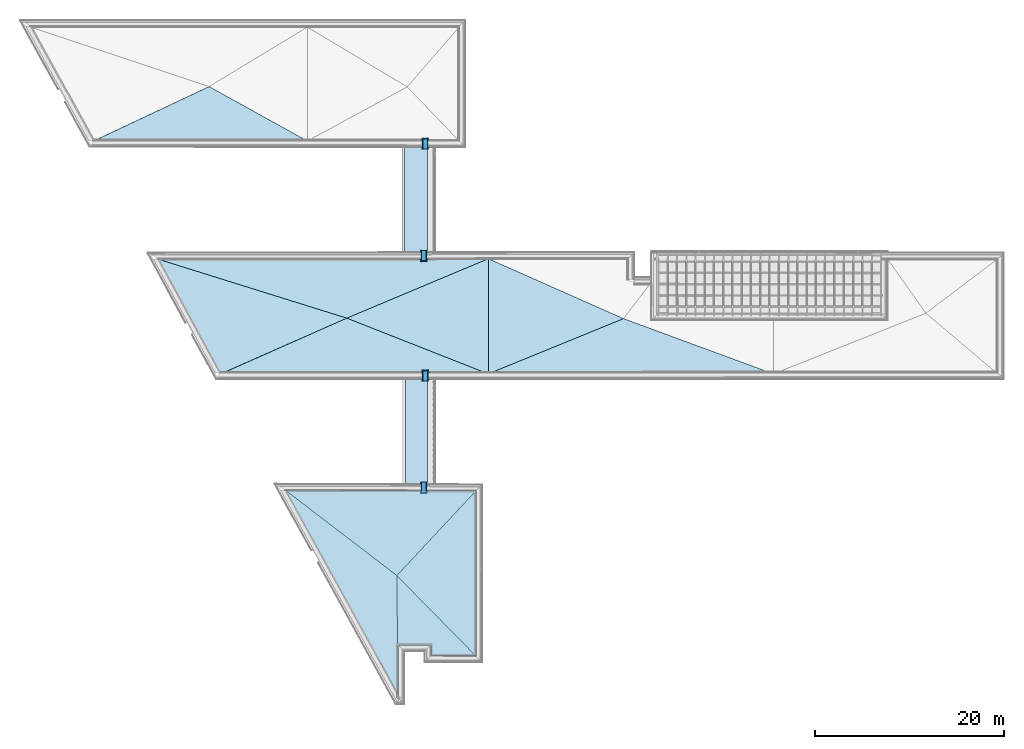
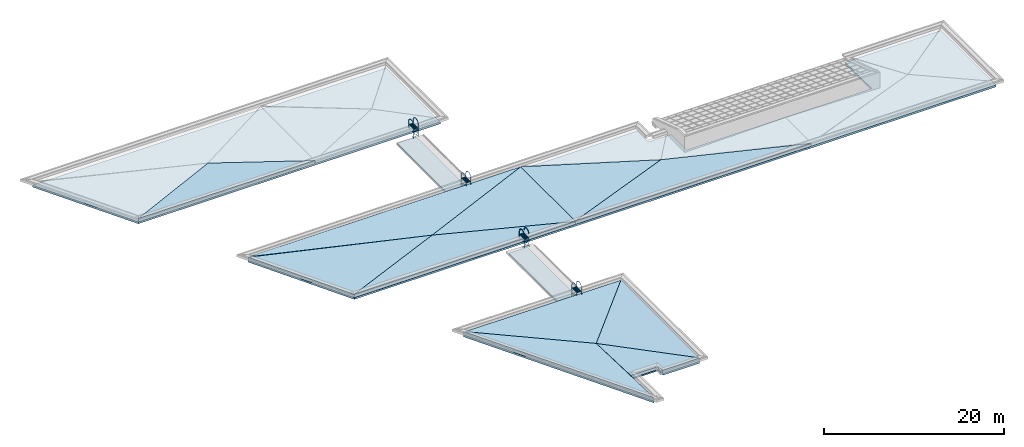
# One storey, part 14 of 47: 16 roofs, 4 stairs.
"""IFC2X3 building model written with IfcOpenShell, lengths in millimetres."""

from ifc_helpers import new_model, entity, si_unit, converted_unit, derived_unit, money_unit, direction, frame, origin_with_axes, place, context, subcontext, project, spatial, polyline, outline, extrude, open_shell, faceted_brep, surface_model, source, transform, mapped, material, element, save


model = new_model("IFC2X3")

# Units and contexts
model_context = context("Model", 3, precision=1e-05, world=origin_with_axes(), true_north=direction((0.0, 1.0)))
body_context = subcontext(model_context, "Body", "Model", "MODEL_VIEW")
ifc_project = project(units=[si_unit("LENGTHUNIT", "METRE", prefix="MILLI"), si_unit("AREAUNIT", "SQUARE_METRE"), si_unit("VOLUMEUNIT", "CUBIC_METRE"), converted_unit("PLANEANGLEUNIT", "DEGREE", entity("IfcPlaneAngleMeasure", 0.0174532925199), si_unit("PLANEANGLEUNIT", "RADIAN"), dimensions=[0, 0, 0, 0, 0, 0, 0]), si_unit("SOLIDANGLEUNIT", "STERADIAN"), money_unit("EUR"), converted_unit("TIMEUNIT", "Year", entity("IfcTimeMeasure", 31556926.0), si_unit("TIMEUNIT", "SECOND"), dimensions=[0, 0, 1, 0, 0, 0, 0]), si_unit("MASSUNIT", "GRAM", prefix="KILO"), si_unit("THERMODYNAMICTEMPERATUREUNIT", "DEGREE_CELSIUS"), si_unit("LUMINOUSINTENSITYUNIT", "LUMEN"), si_unit("ENERGYUNIT", "JOULE", prefix="MEGA"), derived_unit("THERMALCONDUCTANCEUNIT", [(si_unit("POWERUNIT", "WATT"), 1), (si_unit("LENGTHUNIT", "METRE"), -1), (si_unit("THERMODYNAMICTEMPERATUREUNIT", "KELVIN"), -1)]), derived_unit("SPECIFICHEATCAPACITYUNIT", [(si_unit("ENERGYUNIT", "JOULE"), 1), (si_unit("MASSUNIT", "GRAM", prefix="KILO"), -1), (si_unit("THERMODYNAMICTEMPERATUREUNIT", "KELVIN"), -1)]), derived_unit("MASSDENSITYUNIT", [(si_unit("MASSUNIT", "GRAM", prefix="KILO"), 1), (si_unit("VOLUMEUNIT", "CUBIC_METRE"), -1)])], contexts=[model_context])

# Site, building, storey
site_placement = place(None, origin_with_axes())
site = spatial("IfcSite", under=ifc_project, at=site_placement, Name="Site", CompositionType="ELEMENT")
building_placement = place(site_placement, origin_with_axes())
building = spatial("IfcBuilding", under=site, at=building_placement, Name="Building", CompositionType="ELEMENT")
storey_placement = place(building_placement, frame((0.0, 0.0, 6000.0), z_axis=(0.0, 0.0, 1.0), x_axis=(1.0, 0.0, 0.0)))
storey = spatial("IfcBuildingStorey", under=building, at=storey_placement, Name="KATUSEPLAAN", CompositionType="ELEMENT", Elevation=6000.0)

# Stairs
shared_shape = source(origin_with_axes(), body_context, "Body", "SurfaceModel", [
    faceted_brep([(-287.3, -180.0, 1250.0), (287.3, -180.0, 1250.0), (287.3, -180.0, 1300.0), (-287.3, -180.0, 1300.0), (-287.3, 930.000050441, 1250.0), (287.3, 930.000050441, 1250.0), (-261.9, -154.6, 1250.0), (261.9, -154.6, 1250.0), (261.9, 904.600050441, 1250.0), (-261.9, 904.600050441, 1250.0), (287.3, 930.000050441, 1300.0), (-287.3, 930.000050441, 1300.0), (-261.9, -154.6, 1300.0), (-261.9, 904.600050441, 1300.0), (261.9, 904.600050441, 1300.0), (261.9, -154.6, 1300.0)], [[[0, 1, 2, 3]], [[0, 4, 5, 1], [6, 7, 8, 9]], [[1, 5, 10, 2]], [[3, 2, 10, 11], [12, 13, 14, 15]], [[4, 0, 3, 11]], [[5, 4, 11, 10]], [[7, 6, 12, 15]], [[8, 7, 15, 14]], [[9, 8, 14, 13]], [[6, 9, 13, 12]]]),
    surface_model("IfcShellBasedSurfaceModel", [(-261.9, -130.0, 1300.0), (-261.9, -130.0, 1250.0), (261.9, -130.0, 1250.0), (261.9, -130.0, 1300.0)], [open_shell([[[0, 1, 2, 3]]])]),
    surface_model("IfcShellBasedSurfaceModel", [(-261.9, -80.0, 1300.0), (-261.9, -80.0, 1250.0), (261.9, -80.0, 1250.0), (261.9, -80.0, 1300.0)], [open_shell([[[0, 1, 2, 3]]])]),
    surface_model("IfcShellBasedSurfaceModel", [(-261.9, -30.0, 1300.0), (-261.9, -30.0, 1250.0), (261.9, -30.0, 1250.0), (261.9, -30.0, 1300.0)], [open_shell([[[0, 1, 2, 3]]])]),
    surface_model("IfcShellBasedSurfaceModel", [(-261.9, 20.0, 1300.0), (-261.9, 20.0, 1250.0), (261.9, 20.0, 1250.0), (261.9, 20.0, 1300.0)], [open_shell([[[0, 1, 2, 3]]])]),
    surface_model("IfcShellBasedSurfaceModel", [(-261.9, 70.0, 1300.0), (-261.9, 70.0, 1250.0), (261.9, 70.0, 1250.0), (261.9, 70.0, 1300.0)], [open_shell([[[0, 1, 2, 3]]])]),
    surface_model("IfcShellBasedSurfaceModel", [(-261.9, 120.0, 1300.0), (-261.9, 120.0, 1250.0), (261.9, 120.0, 1250.0), (261.9, 120.0, 1300.0)], [open_shell([[[0, 1, 2, 3]]])]),
    surface_model("IfcShellBasedSurfaceModel", [(-261.9, 170.0, 1300.0), (-261.9, 170.0, 1250.0), (261.9, 170.0, 1250.0), (261.9, 170.0, 1300.0)], [open_shell([[[0, 1, 2, 3]]])]),
    surface_model("IfcShellBasedSurfaceModel", [(-261.9, 220.0, 1300.0), (-261.9, 220.0, 1250.0), (261.9, 220.0, 1250.0), (261.9, 220.0, 1300.0)], [open_shell([[[0, 1, 2, 3]]])]),
    surface_model("IfcShellBasedSurfaceModel", [(-261.9, 270.0, 1300.0), (-261.9, 270.0, 1250.0), (261.9, 270.0, 1250.0), (261.9, 270.0, 1300.0)], [open_shell([[[0, 1, 2, 3]]])]),
    surface_model("IfcShellBasedSurfaceModel", [(-261.9, 320.0, 1300.0), (-261.9, 320.0, 1250.0), (261.9, 320.0, 1250.0), (261.9, 320.0, 1300.0)], [open_shell([[[0, 1, 2, 3]]])]),
    surface_model("IfcShellBasedSurfaceModel", [(-261.9, 370.0, 1300.0), (-261.9, 370.0, 1250.0), (261.9, 370.0, 1250.0), (261.9, 370.0, 1300.0)], [open_shell([[[0, 1, 2, 3]]])]),
    surface_model("IfcShellBasedSurfaceModel", [(-261.9, 420.0, 1300.0), (-261.9, 420.0, 1250.0), (261.9, 420.0, 1250.0), (261.9, 420.0, 1300.0)], [open_shell([[[0, 1, 2, 3]]])]),
    surface_model("IfcShellBasedSurfaceModel", [(-261.9, 470.0, 1300.0), (-261.9, 470.0, 1250.0), (261.9, 470.0, 1250.0), (261.9, 470.0, 1300.0)], [open_shell([[[0, 1, 2, 3]]])]),
    surface_model("IfcShellBasedSurfaceModel", [(-261.9, 520.0, 1300.0), (-261.9, 520.0, 1250.0), (261.9, 520.0, 1250.0), (261.9, 520.0, 1300.0)], [open_shell([[[0, 1, 2, 3]]])]),
    surface_model("IfcShellBasedSurfaceModel", [(-261.9, 570.0, 1300.0), (-261.9, 570.0, 1250.0), (261.9, 570.0, 1250.0), (261.9, 570.0, 1300.0)], [open_shell([[[0, 1, 2, 3]]])]),
    surface_model("IfcShellBasedSurfaceModel", [(-261.9, 620.0, 1300.0), (-261.9, 620.0, 1250.0), (261.9, 620.0, 1250.0), (261.9, 620.0, 1300.0)], [open_shell([[[0, 1, 2, 3]]])]),
    surface_model("IfcShellBasedSurfaceModel", [(-261.9, 670.0, 1300.0), (-261.9, 670.0, 1250.0), (261.9, 670.0, 1250.0), (261.9, 670.0, 1300.0)], [open_shell([[[0, 1, 2, 3]]])]),
    surface_model("IfcShellBasedSurfaceModel", [(-261.9, 720.0, 1300.0), (-261.9, 720.0, 1250.0), (261.9, 720.0, 1250.0), (261.9, 720.0, 1300.0)], [open_shell([[[0, 1, 2, 3]]])]),
    surface_model("IfcShellBasedSurfaceModel", [(-261.9, 770.0, 1300.0), (-261.9, 770.0, 1250.0), (261.9, 770.0, 1250.0), (261.9, 770.0, 1300.0)], [open_shell([[[0, 1, 2, 3]]])]),
    surface_model("IfcShellBasedSurfaceModel", [(-261.9, 820.0, 1300.0), (-261.9, 820.0, 1250.0), (261.9, 820.0, 1250.0), (261.9, 820.0, 1300.0)], [open_shell([[[0, 1, 2, 3]]])]),
    surface_model("IfcShellBasedSurfaceModel", [(-261.9, 870.0, 1300.0), (-261.9, 870.0, 1250.0), (261.9, 870.0, 1250.0), (261.9, 870.0, 1300.0)], [open_shell([[[0, 1, 2, 3]]])]),
    surface_model("IfcShellBasedSurfaceModel", [(262.7, -154.6, 1300.0), (262.7, -154.6, 1250.0), (262.7, 904.600050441, 1250.0), (262.7, 904.600050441, 1300.0)], [open_shell([[[0, 1, 2, 3]]])]),
    surface_model("IfcShellBasedSurfaceModel", [(212.7, -154.6, 1300.0), (212.7, -154.6, 1250.0), (212.7, 904.600050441, 1250.0), (212.7, 904.600050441, 1300.0)], [open_shell([[[0, 1, 2, 3]]])]),
    surface_model("IfcShellBasedSurfaceModel", [(162.7, -154.6, 1300.0), (162.7, -154.6, 1250.0), (162.7, 904.600050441, 1250.0), (162.7, 904.600050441, 1300.0)], [open_shell([[[0, 1, 2, 3]]])]),
    surface_model("IfcShellBasedSurfaceModel", [(112.7, -154.6, 1300.0), (112.7, -154.6, 1250.0), (112.7, 904.600050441, 1250.0), (112.7, 904.600050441, 1300.0)], [open_shell([[[0, 1, 2, 3]]])]),
    surface_model("IfcShellBasedSurfaceModel", [(62.7, -154.6, 1300.0), (62.7, -154.6, 1250.0), (62.7, 904.600050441, 1250.0), (62.7, 904.600050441, 1300.0)], [open_shell([[[0, 1, 2, 3]]])]),
    surface_model("IfcShellBasedSurfaceModel", [(12.7, -154.6, 1300.0), (12.7, -154.6, 1250.0), (12.7, 904.600050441, 1250.0), (12.7, 904.600050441, 1300.0)], [open_shell([[[0, 1, 2, 3]]])]),
    surface_model("IfcShellBasedSurfaceModel", [(-37.3, -154.6, 1300.0), (-37.3, -154.6, 1250.0), (-37.3, 904.600050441, 1250.0), (-37.3, 904.600050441, 1300.0)], [open_shell([[[0, 1, 2, 3]]])]),
    surface_model("IfcShellBasedSurfaceModel", [(-87.3, -154.6, 1300.0), (-87.3, -154.6, 1250.0), (-87.3, 904.600050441, 1250.0), (-87.3, 904.600050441, 1300.0)], [open_shell([[[0, 1, 2, 3]]])]),
    surface_model("IfcShellBasedSurfaceModel", [(-137.3, -154.6, 1300.0), (-137.3, -154.6, 1250.0), (-137.3, 904.600050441, 1250.0), (-137.3, 904.600050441, 1300.0)], [open_shell([[[0, 1, 2, 3]]])]),
    surface_model("IfcShellBasedSurfaceModel", [(-187.3, -154.6, 1300.0), (-187.3, -154.6, 1250.0), (-187.3, 904.600050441, 1250.0), (-187.3, 904.600050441, 1300.0)], [open_shell([[[0, 1, 2, 3]]])]),
    surface_model("IfcShellBasedSurfaceModel", [(-237.3, -154.6, 1300.0), (-237.3, -154.6, 1250.0), (-237.3, 904.600050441, 1250.0), (-237.3, 904.600050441, 1300.0)], [open_shell([[[0, 1, 2, 3]]])]),
    faceted_brep([(-312.7, -12.7, 152.4), (-312.7, -218.1, 152.4), (-312.7, -218.1, 228.6), (-312.7, -12.7, 228.6), (-414.3, -12.7, 152.4), (-414.3, 0.0, 152.4), (-300.0, 0.0, 152.4), (-300.0, -218.1, 152.4), (-300.0, -218.1, 228.6), (-300.0, 0.0, 228.6), (-414.3, 0.0, 228.6), (-414.3, -12.7, 228.6)], [[[0, 1, 2, 3]], [[0, 4, 5, 6, 7, 1]], [[1, 7, 8, 2]], [[3, 2, 8, 9, 10, 11]], [[4, 0, 3, 11]], [[5, 4, 11, 10]], [[6, 5, 10, 9]], [[7, 6, 9, 8]]]),
    faceted_brep([(312.7, -12.7, 152.4), (312.7, -12.7, 228.6), (312.7, -218.1, 228.6), (312.7, -218.1, 152.4), (414.3, -12.7, 152.4), (414.3, -12.7, 228.6), (414.3, 0.0, 228.6), (300.0, 0.0, 228.6), (300.0, -218.1, 228.6), (300.0, -218.1, 152.4), (300.0, 0.0, 152.4), (414.3, 0.0, 152.4)], [[[0, 1, 2, 3]], [[4, 5, 1, 0]], [[1, 5, 6, 7, 8, 2]], [[3, 2, 8, 9]], [[0, 3, 9, 10, 11, 4]], [[11, 6, 5, 4]], [[10, 7, 6, 11]], [[9, 8, 7, 10]]]),
    faceted_brep([(-312.7, 762.700050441, 918.4), (-312.7, 762.700050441, 994.6), (-312.7, 968.100050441, 994.6), (-312.7, 968.100050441, 918.4), (-414.3, 762.700050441, 918.4), (-414.3, 762.700050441, 994.6), (-414.3, 750.000050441, 994.6), (-300.0, 750.000050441, 994.6), (-300.0, 968.100050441, 994.6), (-300.0, 968.100050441, 918.4), (-300.0, 750.000050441, 918.4), (-414.3, 750.000050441, 918.4)], [[[0, 1, 2, 3]], [[4, 5, 1, 0]], [[1, 5, 6, 7, 8, 2]], [[3, 2, 8, 9]], [[0, 3, 9, 10, 11, 4]], [[11, 6, 5, 4]], [[10, 7, 6, 11]], [[9, 8, 7, 10]]]),
    faceted_brep([(312.7, 762.700050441, 918.4), (312.7, 968.100050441, 918.4), (312.7, 968.100050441, 994.6), (312.7, 762.700050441, 994.6), (414.3, 762.700050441, 918.4), (414.3, 750.000050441, 918.4), (300.0, 750.000050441, 918.4), (300.0, 968.100050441, 918.4), (300.0, 968.100050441, 994.6), (300.0, 750.000050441, 994.6), (414.3, 750.000050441, 994.6), (414.3, 762.700050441, 994.6)], [[[0, 1, 2, 3]], [[0, 4, 5, 6, 7, 1]], [[1, 7, 8, 2]], [[3, 2, 8, 9, 10, 11]], [[4, 0, 3, 11]], [[5, 4, 11, 10]], [[6, 5, 10, 9]], [[7, 6, 9, 8]]]),
    faceted_brep([(-312.7, 762.700050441, 918.4), (-312.7, 762.700050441, 994.6), (-312.7, 968.100050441, 994.6), (-312.7, 968.100050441, 918.4), (-414.3, 762.700050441, 918.4), (-414.3, 762.700050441, 994.6), (-414.3, 750.000050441, 994.6), (-300.0, 750.000050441, 994.6), (-300.0, 968.100050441, 994.6), (-300.0, 968.100050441, 918.4), (-300.0, 750.000050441, 918.4), (-414.3, 750.000050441, 918.4)], [[[0, 1, 2, 3]], [[4, 5, 1, 0]], [[1, 5, 6, 7, 8, 2]], [[3, 2, 8, 9]], [[0, 3, 9, 10, 11, 4]], [[11, 6, 5, 4]], [[10, 7, 6, 11]], [[9, 8, 7, 10]]]),
    faceted_brep([(312.7, 762.700050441, 918.4), (312.7, 968.100050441, 918.4), (312.7, 968.100050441, 994.6), (312.7, 762.700050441, 994.6), (414.3, 762.700050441, 918.4), (414.3, 750.000050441, 918.4), (300.0, 750.000050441, 918.4), (300.0, 968.100050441, 918.4), (300.0, 968.100050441, 994.6), (300.0, 750.000050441, 994.6), (414.3, 750.000050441, 994.6), (414.3, 762.700050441, 994.6)], [[[0, 1, 2, 3]], [[0, 4, 5, 6, 7, 1]], [[1, 7, 8, 2]], [[3, 2, 8, 9, 10, 11]], [[4, 0, 3, 11]], [[5, 4, 11, 10]], [[6, 5, 10, 9]], [[7, 6, 9, 8]]]),
    faceted_brep([(-312.7, -12.7, 918.4), (-312.7, -218.1, 918.4), (-312.7, -218.1, 994.6), (-312.7, -12.7, 994.6), (-414.3, -12.7, 918.4), (-414.3, 0.0, 918.4), (-300.0, 0.0, 918.4), (-300.0, -218.1, 918.4), (-300.0, -218.1, 994.6), (-300.0, 0.0, 994.6), (-414.3, 0.0, 994.6), (-414.3, -12.7, 994.6)], [[[0, 1, 2, 3]], [[0, 4, 5, 6, 7, 1]], [[1, 7, 8, 2]], [[3, 2, 8, 9, 10, 11]], [[4, 0, 3, 11]], [[5, 4, 11, 10]], [[6, 5, 10, 9]], [[7, 6, 9, 8]]]),
    faceted_brep([(312.7, -12.7, 918.4), (312.7, -12.7, 994.6), (312.7, -218.1, 994.6), (312.7, -218.1, 918.4), (414.3, -12.7, 918.4), (414.3, -12.7, 994.6), (414.3, 0.0, 994.6), (300.0, 0.0, 994.6), (300.0, -218.1, 994.6), (300.0, -218.1, 918.4), (300.0, 0.0, 918.4), (414.3, 0.0, 918.4)], [[[0, 1, 2, 3]], [[4, 5, 1, 0]], [[1, 5, 6, 7, 8, 2]], [[3, 2, 8, 9]], [[0, 3, 9, 10, 11, 4]], [[11, 6, 5, 4]], [[10, 7, 6, 11]], [[9, 8, 7, 10]]]),
    faceted_brep([(-287.3, -141.9, 101.6), (-287.3, -218.1, 101.6), (-300.0, -218.1, 101.6), (-300.0, -141.9, 101.6), (-287.3, -141.9, 1700.0), (-287.3, -102.553328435, 1897.80907584), (-287.3, 9.49651219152, 2065.50351303), (-287.3, 177.190949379, 2177.55335366), (-287.3, 375.00002522, 2216.90002522), (-287.3, 572.809101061, 2177.55335366), (-287.3, 740.503538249, 2065.50351303), (-287.3, 852.553378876, 1897.80907584), (-287.3, 891.900050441, 1700.0), (-287.3, 891.900050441, 893.0), (-287.3, 968.100050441, 893.0), (-287.3, 968.100050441, 1700.0), (-287.3, 922.952999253, 1926.96955339), (-287.3, 794.385074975, 2119.38504976), (-287.3, 601.969578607, 2247.95297403), (-287.3, 375.00002522, 2293.10002522), (-287.3, 148.030471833, 2247.95297403), (-287.3, -44.3850245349, 2119.38504976), (-287.3, -172.952948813, 1926.96955339), (-287.3, -218.1, 1700.0), (-300.0, -218.1, 1700.0), (-300.0, -172.952948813, 1926.96955339), (-300.0, -44.3850245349, 2119.38504976), (-300.0, 148.030471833, 2247.95297403), (-300.0, 375.00002522, 2293.10002522), (-300.0, 601.969578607, 2247.95297403), (-300.0, 794.385074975, 2119.38504976), (-300.0, 922.952999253, 1926.96955339), (-300.0, 968.100050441, 1700.0), (-300.0, 968.100050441, 893.0), (-300.0, 891.900050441, 893.0), (-300.0, 891.900050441, 1700.0), (-300.0, 852.553378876, 1897.80907584), (-300.0, 740.503538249, 2065.50351303), (-300.0, 572.809101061, 2177.55335366), (-300.0, 375.00002522, 2216.90002522), (-300.0, 177.190949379, 2177.55335366), (-300.0, 9.49651219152, 2065.50351303), (-300.0, -102.553328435, 1897.80907584), (-300.0, -141.9, 1700.0)], [[[0, 1, 2, 3]], [[0, 4, 5, 6, 7, 8, 9, 10, 11, 12, 13, 14, 15, 16, 17, 18, 19, 20, 21, 22, 23, 1]], [[1, 23, 24, 2]], [[3, 2, 24, 25, 26, 27, 28, 29, 30, 31, 32, 33, 34, 35, 36, 37, 38, 39, 40, 41, 42, 43]], [[4, 0, 3, 43]], [[5, 4, 43, 42]], [[6, 5, 42, 41]], [[7, 6, 41, 40]], [[8, 7, 40, 39]], [[9, 8, 39, 38]], [[10, 9, 38, 37]], [[11, 10, 37, 36]], [[12, 11, 36, 35]], [[13, 12, 35, 34]], [[14, 13, 34, 33]], [[15, 14, 33, 32]], [[16, 15, 32, 31]], [[17, 16, 31, 30]], [[18, 17, 30, 29]], [[19, 18, 29, 28]], [[20, 19, 28, 27]], [[21, 20, 27, 26]], [[22, 21, 26, 25]], [[23, 22, 25, 24]]]),
    faceted_brep([(300.0, -141.9, 101.6), (300.0, -218.1, 101.6), (287.3, -218.1, 101.6), (287.3, -141.9, 101.6), (300.0, -141.9, 1700.0), (300.0, -102.553328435, 1897.80907584), (300.0, 9.49651219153, 2065.50351303), (300.0, 177.190949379, 2177.55335366), (300.0, 375.00002522, 2216.90002522), (300.0, 572.809101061, 2177.55335366), (300.0, 740.503538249, 2065.50351303), (300.0, 852.553378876, 1897.80907584), (300.0, 891.900050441, 1700.0), (300.0, 891.900050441, 893.0), (300.0, 968.100050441, 893.0), (300.0, 968.100050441, 1700.0), (300.0, 922.952999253, 1926.96955339), (300.0, 794.385074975, 2119.38504976), (300.0, 601.969578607, 2247.95297403), (300.0, 375.00002522, 2293.10002522), (300.0, 148.030471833, 2247.95297403), (300.0, -44.3850245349, 2119.38504976), (300.0, -172.952948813, 1926.96955339), (300.0, -218.1, 1700.0), (287.3, -218.1, 1700.0), (287.3, -172.952948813, 1926.96955339), (287.3, -44.3850245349, 2119.38504976), (287.3, 148.030471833, 2247.95297403), (287.3, 375.00002522, 2293.10002522), (287.3, 601.969578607, 2247.95297403), (287.3, 794.385074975, 2119.38504976), (287.3, 922.952999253, 1926.96955339), (287.3, 968.100050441, 1700.0), (287.3, 968.100050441, 893.0), (287.3, 891.900050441, 893.0), (287.3, 891.900050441, 1700.0), (287.3, 852.553378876, 1897.80907584), (287.3, 740.503538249, 2065.50351303), (287.3, 572.809101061, 2177.55335366), (287.3, 375.00002522, 2216.90002522), (287.3, 177.190949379, 2177.55335366), (287.3, 9.49651219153, 2065.50351303), (287.3, -102.553328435, 1897.80907584), (287.3, -141.9, 1700.0)], [[[0, 1, 2, 3]], [[0, 4, 5, 6, 7, 8, 9, 10, 11, 12, 13, 14, 15, 16, 17, 18, 19, 20, 21, 22, 23, 1]], [[1, 23, 24, 2]], [[3, 2, 24, 25, 26, 27, 28, 29, 30, 31, 32, 33, 34, 35, 36, 37, 38, 39, 40, 41, 42, 43]], [[4, 0, 3, 43]], [[5, 4, 43, 42]], [[6, 5, 42, 41]], [[7, 6, 41, 40]], [[8, 7, 40, 39]], [[9, 8, 39, 38]], [[10, 9, 38, 37]], [[11, 10, 37, 36]], [[12, 11, 36, 35]], [[13, 12, 35, 34]], [[14, 13, 34, 33]], [[15, 14, 33, 32]], [[16, 15, 32, 31]], [[17, 16, 31, 30]], [[18, 17, 30, 29]], [[19, 18, 29, 28]], [[20, 19, 28, 27]], [[21, 20, 27, 26]], [[22, 21, 26, 25]], [[23, 22, 25, 24]]]),
    faceted_brep([(287.3, -195.0, 270.0), (-287.3, -195.0, 270.0), (-287.3, -165.0, 270.0), (287.3, -165.0, 270.0), (287.3, -195.0, 300.0), (-287.3, -195.0, 300.0), (-287.3, -165.0, 300.0), (287.3, -165.0, 300.0)], [[[0, 1, 2, 3]], [[1, 0, 4, 5]], [[2, 1, 5, 6]], [[3, 2, 6, 7]], [[0, 3, 7, 4]], [[5, 4, 7, 6]]]),
    faceted_brep([(287.3, -195.0, 495.0), (-287.3, -195.0, 495.0), (-287.3, -165.0, 495.0), (287.3, -165.0, 495.0), (287.3, -195.0, 525.0), (-287.3, -195.0, 525.0), (-287.3, -165.0, 525.0), (287.3, -165.0, 525.0)], [[[0, 1, 2, 3]], [[1, 0, 4, 5]], [[2, 1, 5, 6]], [[3, 2, 6, 7]], [[0, 3, 7, 4]], [[5, 4, 7, 6]]]),
    faceted_brep([(287.3, -195.0, 720.0), (-287.3, -195.0, 720.0), (-287.3, -165.0, 720.0), (287.3, -165.0, 720.0), (287.3, -195.0, 750.0), (-287.3, -195.0, 750.0), (-287.3, -165.0, 750.0), (287.3, -165.0, 750.0)], [[[0, 1, 2, 3]], [[1, 0, 4, 5]], [[2, 1, 5, 6]], [[3, 2, 6, 7]], [[0, 3, 7, 4]], [[5, 4, 7, 6]]]),
    faceted_brep([(287.3, -195.0, 945.0), (-287.3, -195.0, 945.0), (-287.3, -165.0, 945.0), (287.3, -165.0, 945.0), (287.3, -195.0, 975.0), (-287.3, -195.0, 975.0), (-287.3, -165.0, 975.0), (287.3, -165.0, 975.0)], [[[0, 1, 2, 3]], [[1, 0, 4, 5]], [[2, 1, 5, 6]], [[3, 2, 6, 7]], [[0, 3, 7, 4]], [[5, 4, 7, 6]]]),
    faceted_brep([(287.3, -195.0, 1170.0), (-287.3, -195.0, 1170.0), (-287.3, -165.0, 1170.0), (287.3, -165.0, 1170.0), (287.3, -195.0, 1200.0), (-287.3, -195.0, 1200.0), (-287.3, -165.0, 1200.0), (287.3, -165.0, 1200.0)], [[[0, 1, 2, 3]], [[1, 0, 4, 5]], [[2, 1, 5, 6]], [[3, 2, 6, 7]], [[0, 3, 7, 4]], [[5, 4, 7, 6]]]),
])
for number, where, z_axis, x_axis, name in (
    (1, (39448.9768719, 22993.1584419, 83.5522445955), (0.0, 0.0, 1.0), (-1.0, 0.0, 0.0), "FU - 001"),
    (2, (39568.4593736, 58690.4447567, 83.5522445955), (0.0, 0.0, 1.0), (1.0, 0.0, 0.0), "FU - 001"),
    (3, (39579.9929484, 34127.8743897, 83.5522445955), (0.0, 0.0, 1.0), (1.0, 0.0, 0.0), "FU - 001"),
    (4, (39437.4581927, 47542.6641648, 83.5522445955), (0.0, 0.0, 1.0), (-1.0, 0.0, 0.0), "FU - 001"),
):
    element("IfcStair", number, at=place(storey_placement, frame(where, z_axis=z_axis, x_axis=x_axis)), inside=storey, Name=name, ShapeType="NOTDEFINED", context=body_context, shape_type="MappedRepresentation", body=[
        mapped(shared_shape, transform((0.0, 0.0, 0.0))),
    ])

# Roofs
ifc_material_1 = material(Name="Soojustus - Plastik Kõva")
roof_1_placement = place(storey_placement, frame((36581.77561, 4827.82563241, 515.0), z_axis=(0.0, 0.0, 1.0), x_axis=(1.0, 0.0, 0.0)))
element("IfcRoof", 5, at=roof_1_placement, inside=storey, material=ifc_material_1, Name="Soojustus - Plastik Kõva", ShapeType="NOTDEFINED", context=body_context, shape_type="Brep", body=[
    faceted_brep([(8357.16060729, 0.0, 400.0), (8366.86905164, 17475.489215, 470.0), (0.0, 8509.50900759, 200.0), (8357.16060729, 0.0, 0.0), (8366.86905164, 17475.489215, 0.0), (0.0, 8509.50900759, 0.0)], [[[0, 1, 2]], [[1, 0, 3, 4]], [[2, 1, 4, 5]], [[0, 2, 5, 3]], [[4, 3, 5]]]),
])
roof_2_placement = place(storey_placement, frame((24799.1926263, 13337.33464, 515.0), z_axis=(0.0, 0.0, 1.0), x_axis=(1.0, 0.0, 0.0)))
element("IfcRoof", 6, at=roof_2_placement, inside=storey, material=ifc_material_1, Name="Soojustus - Plastik Kõva", ShapeType="NOTDEFINED", context=body_context, shape_type="Brep", body=[
    faceted_brep([(20149.4520353, 8965.9802074, 400.0), (0.0, 9019.96112833, 400.0), (11782.5829837, 0.0, 200.0), (20149.4520353, 8965.9802074, 0.0), (0.0, 9019.96112833, 0.0), (11782.5829837, 0.0, 0.0)], [[[0, 1, 2]], [[1, 0, 3, 4]], [[2, 1, 4, 5]], [[0, 2, 5, 3]], [[4, 3, 5]]]),
])
roof_3_placement = place(storey_placement, frame((24799.1736453, 717.534145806, 515.0), z_axis=(0.0, 0.0, 1.0), x_axis=(1.0, 0.0, 0.0)))
element("IfcRoof", 7, at=roof_3_placement, inside=storey, material=ifc_material_1, Name="Soojustus - Plastik Kõva", ShapeType="NOTDEFINED", context=body_context, shape_type="Brep", body=[
    faceted_brep([(0.0, 21643.9738716, 470.0), (11903.5010914, 0.0, 470.0), (11782.6019647, 12619.8004942, 200.0), (0.0, 21643.9738716, 0.0), (11903.5010914, 0.0, 0.0), (11782.6019647, 12619.8004942, 0.0)], [[[0, 1, 2]], [[1, 0, 3, 4]], [[2, 1, 4, 5]], [[0, 2, 5, 3]], [[4, 3, 5]]]),
])
roof_4_placement = place(storey_placement, frame((17923.0618528, 34666.8026545, 515.0), z_axis=(0.0, 0.0, 1.0), x_axis=(1.0, 0.0, 0.0)))
element("IfcRoof", 8, at=roof_4_placement, inside=storey, material=ifc_material_1, Name="Soojustus - Plastik Kõva", ShapeType="NOTDEFINED", context=body_context, shape_type="Brep", body=[
    faceted_brep([(28335.2794885, 15.2472159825, 400.0), (13359.3843972, 5916.32673549, 200.0), (0.0, 0.0, 470.0), (28335.2794885, 15.2472159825, 0.0), (13359.3843972, 5916.32673549, 0.0), (0.0, 0.0, 0.0)], [[[0, 1, 2]], [[1, 0, 3, 4]], [[2, 1, 4, 5]], [[0, 2, 5, 3]], [[3, 5, 4]]]),
])
roof_5_placement = place(storey_placement, frame((11296.215259, 34671.642408, 515.0), z_axis=(0.0, 0.0, 1.0), x_axis=(1.0, 0.0, 0.0)))
element("IfcRoof", 9, at=roof_5_placement, inside=storey, material=ifc_material_1, Name="Soojustus - Plastik Kõva", ShapeType="NOTDEFINED", context=body_context, shape_type="Brep", body=[
    faceted_brep([(0.0, 12158.0147049, 420.0), (6608.68424627, 0.0, 420.0), (19986.230991, 5911.48698199, 200.0), (0.0, 12158.0147049, 0.0), (6608.68424627, 0.0, 0.0), (19986.230991, 5911.48698199, 0.0)], [[[0, 1, 2]], [[1, 0, 3, 4]], [[2, 1, 4, 5]], [[0, 2, 5, 3]], [[4, 3, 5]]]),
])
roof_6_placement = place(storey_placement, frame((31282.44625, 34682.0498705, 515.0), z_axis=(0.0, 0.0, 1.0), x_axis=(1.0, 0.0, 0.0)))
element("IfcRoof", 10, at=roof_6_placement, inside=storey, material=ifc_material_1, Name="Soojustus - Plastik Kõva", ShapeType="NOTDEFINED", context=body_context, shape_type="Brep", body=[
    faceted_brep([(14975.916735, 12191.0042879, 400.0), (0.0, 5901.07951951, 200.0), (14975.8950913, 0.0, 400.0), (14975.916735, 12191.0042879, 0.0), (0.0, 5901.07951951, 0.0), (14975.8950913, 0.0, 0.0)], [[[0, 1, 2]], [[1, 0, 3, 4]], [[2, 1, 4, 5]], [[0, 2, 5, 3]], [[3, 5, 4]]]),
])
roof_7_placement = place(storey_placement, frame((46258.3413413, 34684.6494633, 515.0), z_axis=(0.0, 0.0, 1.0), x_axis=(1.0, 0.0, 0.0)))
element("IfcRoof", 11, at=roof_7_placement, inside=storey, material=ifc_material_1, Name="Soojustus - Plastik Kõva", ShapeType="NOTDEFINED", context=body_context, shape_type="Brep", body=[
    faceted_brep([(30197.6613401, 0.0, 400.0), (14316.0922687, 5847.49871672, 200.0), (0.0, 1.61265628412, 470.0), (30197.6613401, 0.0, 0.0), (14316.0922687, 5847.49871672, 0.0), (0.0, 1.61265628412, 0.0)], [[[0, 1, 2]], [[1, 0, 3, 4]], [[2, 1, 4, 5]], [[0, 2, 5, 3]], [[3, 5, 4]]]),
])
roof_8_placement = place(storey_placement, frame((46258.362985, 34686.2621196, 515.0), z_axis=(0.0, 0.0, 1.0), x_axis=(1.0, 0.0, 0.0)))
element("IfcRoof", 12, at=roof_8_placement, inside=storey, material=ifc_material_1, Name="Soojustus - Plastik Kõva", ShapeType="NOTDEFINED", context=body_context, shape_type="Brep", body=[
    faceted_brep([(0.0, 12191.0042879, 400.0), (0.0216437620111, 0.0, 400.0), (14316.070625, 5845.88606044, 200.0), (0.0, 12191.0042879, 0.0), (0.0216437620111, 0.0, 0.0), (14316.070625, 5845.88606044, 0.0)], [[[0, 1, 2]], [[1, 0, 3, 4]], [[2, 1, 4, 5]], [[0, 2, 5, 3]], [[4, 3, 5]]]),
])
roof_9_placement = place(storey_placement, frame((4477.89774308, 59338.5819336, 515.0), z_axis=(0.0, 0.0, 1.0), x_axis=(1.0, 0.0, 0.0)))
element("IfcRoof", 13, at=roof_9_placement, inside=storey, material=ifc_material_1, Name="Soojustus - Plastik Kõva", ShapeType="NOTDEFINED", context=body_context, shape_type="Brep", body=[
    faceted_brep([(22627.5326854, 0.0, 400.0), (12234.4445769, 5757.85660636, 200.0), (0.0, 0.0, 470.0), (22627.5326854, 0.0, 0.0), (12234.4445769, 5757.85660636, 0.0), (0.0, 0.0, 0.0)], [[[0, 1, 2]], [[1, 0, 3, 4]], [[2, 1, 4, 5]], [[0, 2, 5, 3]], [[3, 5, 4]]]),
])
roof_10_placement = place(storey_placement, frame((36581.77561, 4827.82563241, 515.0), z_axis=(0.0, 0.0, 1.0), x_axis=(1.0, 0.0, 0.0)))
element("IfcRoof", 14, at=roof_10_placement, inside=storey, material=ifc_material_1, Name="Soojustus - Plastik Kõva", ShapeType="NOTDEFINED", context=body_context, shape_type="Brep", body=[
    faceted_brep([(3589.86408775, 920.710879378, 400.0), (0.0, 8509.50900759, 200.0), (72.4201193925, 950.087497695, 400.0), (8357.16060729, 0.0, 470.0), (0.0, 8509.50900759, 0.0), (72.4201193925, 950.087497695, 0.0), (3589.86408775, 920.710879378, 0.0), (3582.26429187, 10.7403756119, 470.0), (8357.16060729, 0.0, 0.0), (3582.26429187, 10.7403756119, 0.0)], [[[0, 1, 2]], [[0, 3, 1]], [[2, 1, 4, 5]], [[0, 2, 5, 6]], [[7, 3, 0]], [[1, 3, 8, 4]], [[8, 9, 6, 5, 4]], [[7, 0, 6, 9]], [[3, 7, 9, 8]]]),
])
roof_11_placement = place(storey_placement, frame((11323.3406614, 40583.12939, 515.0), z_axis=(0.0, 0.0, 1.0), x_axis=(1.0, 0.0, 0.0)))
element("IfcRoof", 15, at=roof_11_placement, inside=storey, material=ifc_material_1, Name="Soojustus - Plastik Kõva", ShapeType="NOTDEFINED", context=body_context, shape_type="Brep", body=[
    faceted_brep([(34935.0223237, 6289.92476841, 400.0), (0.0, 6233.84359074, 470.0), (19959.1055886, 0.0, 200.0), (34935.0223237, 6289.92476841, 0.0), (0.0, 6233.84359074, 0.0), (19959.1055886, 0.0, 0.0)], [[[0, 1, 2]], [[1, 0, 3, 4]], [[2, 1, 4, 5]], [[0, 2, 5, 3]], [[4, 3, 5]]]),
])
ifc_material_2 = material(Name="Betoon - Ol.Olev konstruktsioon")
roof_12_placement = place(storey_placement, frame((37479.2198579, 34256.367877, -39.5679478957), z_axis=(0.0, 0.0, 1.0), x_axis=(1.0, 0.0, 0.0)))
element("IfcRoof", 16, at=roof_12_placement, inside=storey, material=ifc_material_2, Name="Betoon - Ol.Olev konstruktsioon", ShapeType="NOTDEFINED", context=body_context, shape_type="SweptSolid", body=[
    extrude(outline(polyline([(0.0, 0.0), (-4.02164444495, -11453.6354167), (2344.22094795, -11459.9330705), (2338.78813737, 0.199338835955), (0.0, 0.0)])), frame((0.0, 0.0, -260.0), z_axis=(0.0, 0.0, 1.0), x_axis=(1.0, 0.0, 0.0)), (0.0, 0.0, 1.0), 260.0),
])
roof_13_placement = place(storey_placement, frame((43173.5098871, 71411.8998356, 515.0), z_axis=(0.0, 0.0, 1.0), x_axis=(1.0, 0.0, 0.0)))
element("IfcRoof", 17, at=roof_13_placement, inside=storey, material=ifc_material_2, Name="Betoon - Ol.Olev konstruktsioon", ShapeType="NOTDEFINED", context=body_context, shape_type="SweptSolid", body=[
    extrude(outline(polyline([(0.0, 0.0), (-45326.8501699, -8.64498689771), (-38695.5431378, -12052.4190008), (0.233357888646, -12051.4610102), (0.0, 0.0)])), frame((0.0, 0.0, -265.0), z_axis=(0.0, 0.0, 1.0), x_axis=(1.0, 0.0, 0.0)), (0.0, 0.0, 1.0), 265.0),
])
roof_14_placement = place(storey_placement, frame((37373.7555036, 47338.0942221, -54.3405679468), z_axis=(0.0, 0.0, 1.0), x_axis=(1.0, 0.0, 0.0)))
element("IfcRoof", 18, at=roof_14_placement, inside=storey, material=ifc_material_2, Name="Betoon - Ol.Olev konstruktsioon", ShapeType="NOTDEFINED", context=body_context, shape_type="SweptSolid", body=[
    extrude(outline(polyline([(0.0, 0.0), (2453.33096606, 3.93631774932), (2452.88889704, 11576.1825312), (4.06459963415, 11576.1825312), (0.0, 0.0)])), frame((0.0, 0.0, -260.0), z_axis=(0.0, 0.0, 1.0), x_axis=(1.0, 0.0, 0.0)), (0.0, 0.0, 1.0), 260.0),
])
roof_15_placement = place(storey_placement, frame((11323.3906863, 46842.084131, 515.0), z_axis=(0.0, 0.0, 1.0), x_axis=(1.0, 0.0, 0.0)))
element("IfcRoof", 19, at=roof_15_placement, inside=storey, material=ifc_material_2, Name="Betoon - Ol.Olev konstruktsioon", ShapeType="NOTDEFINED", context=body_context, shape_type="SweptSolid", body=[
    extrude(outline(polyline([(0.0, 0.0), (6599.70179404, -12141.4896632), (26496.126981, -12137.5831296), (26496.1261923, -12139.8292948), (88853.217187, -12134.5137358), (88851.3402805, 55.0942608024), (76521.8390883, 55.0942608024), (76521.69544, -5842.96950259), (52830.1462993, -5836.1647106), (52828.6916662, -2378.19697355), (49874.0729536, -2380.55265835), (49872.1112906, 79.8639855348), (28944.5323671, 49.1316257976), (28944.5363185, 46.4409003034), (0.0, 0.0)])), frame((0.0, 0.0, -265.0), z_axis=(0.0, 0.0, 1.0), x_axis=(1.0, 0.0, 0.0)), (0.0, 0.0, 1.0), 265.0),
])
roof_16_placement = place(storey_placement, frame((37815.1788005, 22347.5359229, 515.0), z_axis=(0.0, 0.0, 1.0), x_axis=(1.0, 0.0, 0.0)))
element("IfcRoof", 20, at=roof_16_placement, inside=storey, material=ifc_material_2, Name="Betoon - Ol.Olev konstruktsioon", ShapeType="NOTDEFINED", context=body_context, shape_type="SweptSolid", body=[
    extrude(outline(polyline([(-13015.9361491, 34.8709956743), (-1112.4350577, -21609.1028759), (-1100.7354646, -16481.562248), (2447.18170061, -16483.9421874), (2446.5109224, -17483.9112624), (7123.80744191, -17494.5991402), (7133.51588626, -19.1099252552), (-13015.9361491, 34.8709956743)])), frame((0.0, 0.0, -265.0), z_axis=(0.0, 0.0, 1.0), x_axis=(1.0, 0.0, 0.0)), (0.0, 0.0, 1.0), 265.0),
])

save(model, "model.ifc")
